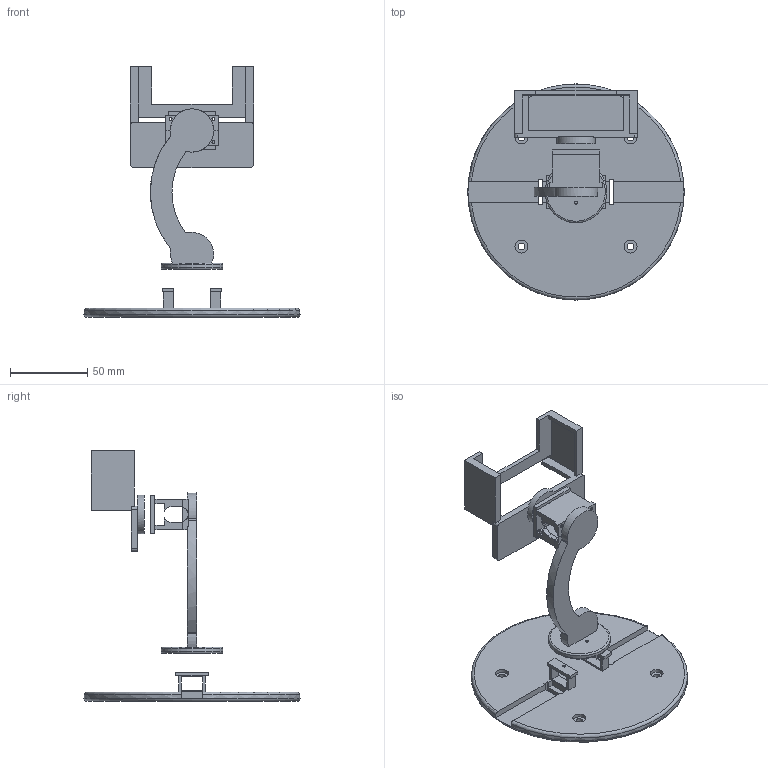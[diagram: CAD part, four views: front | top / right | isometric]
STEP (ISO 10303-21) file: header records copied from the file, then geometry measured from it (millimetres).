
FILE_DESCRIPTION(('Open CASCADE Model'),'2;1');
FILE_NAME('Open CASCADE Shape Model','2026-08-28T14:41:55',('Author'),( 'Open CASCADE'),'Open CASCADE STEP processor 7.8','Open CASCADE 7.8' ,'Unknown');
FILE_SCHEMA(('AUTOMOTIVE_DESIGN { 1 0 10303 214 1 1 1 1 }'));
Length unit declared in the file: millimetre
Products named in the file (5): C270_PanTilt_Printable_Assembly; PanServo_StabilityBase; CurvedArm_SG90_TiltHolder; SG90_RetainingCap; Logitech_C270_ScrewlessCradle
Assembly tree (4 placements, depth 2):
  C270_PanTilt_Printable_Assembly
    PanServo_StabilityBase
    CurvedArm_SG90_TiltHolder
    SG90_RetainingCap
    Logitech_C270_ScrewlessCradle
Bounding box: 140 x 140 x 162.31 mm (x, y, z)
Volume: 132725.1 mm3; surface area: 64311.8 mm2
Topology: 4 solids, 4 shells, 204 faces, 570 edges, 377 vertices
Faces by surface type: plane 148, cylinder 47, torus 5, bspline 4
Full cylindrical faces by diameter (mm): 1.8 x4, 1.9 x2, 2 x8, 2.4 x4, 3.2 x2, 4.4 x4, 8.4 x4, 21 x1, 25 x1, 40 x1, 140 x1
Entity records: 14439 total; most frequent: CARTESIAN_POINT 3373, DIRECTION 1867, ORIENTED_EDGE 1140, PCURVE 1140, DEFINITIONAL_REPRESENTATION 1140, LINE 1081, VECTOR 1081, EDGE_CURVE 570
